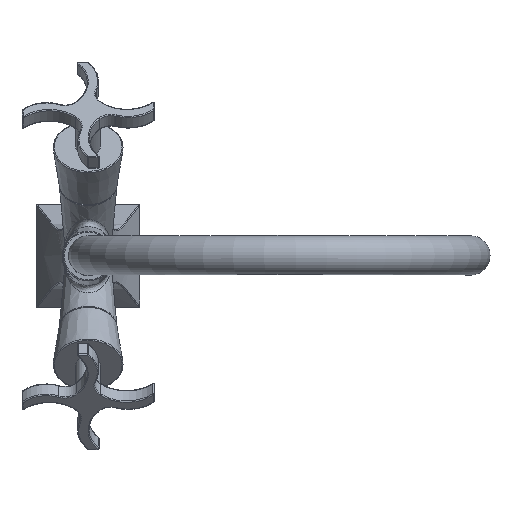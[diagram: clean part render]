
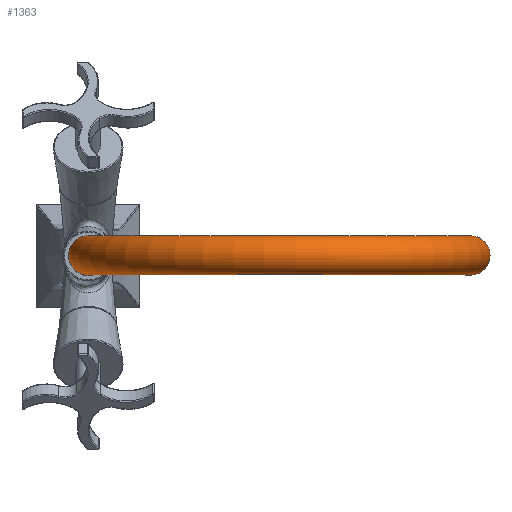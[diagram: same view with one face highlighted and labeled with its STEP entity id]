
A CAD part, top view. The second image highlights one B-rep face of the part: STEP entity #1363.
In plain terms, the highlighted toroidal (fillet/blend) face has major radius 92.5 mm and minor radius 9.5 mm.
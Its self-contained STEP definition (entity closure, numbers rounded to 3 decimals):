
#1363=ADVANCED_FACE('',(#8215,#8217),#8219,.T.);
#8215=FACE_OUTER_BOUND('',#8216,.T.);
#8216=EDGE_LOOP('',(#9338));
#8217=FACE_OUTER_BOUND('',#8218,.T.);
#8218=EDGE_LOOP('',(#9339));
#8219=TOROIDAL_SURFACE('',#8220,92.5,9.5);
#8220=AXIS2_PLACEMENT_3D('',#8221,#8222,#8223);
#8221=CARTESIAN_POINT('',(92.5,0.,245.5));
#8222=DIRECTION('',(0.,1.,0.));
#8223=DIRECTION('',(-1.,0.,0.));
#9338=ORIENTED_EDGE('',*,*,#9918,.F.);
#9339=ORIENTED_EDGE('',*,*,#9916,.T.);
#9916=EDGE_CURVE('',#10557,#10557,#10558,.T.);
#9918=EDGE_CURVE('',#10561,#10561,#10562,.T.);
#10557=VERTEX_POINT('',#14362);
#10558=CIRCLE('',#14363,9.5);
#10561=VERTEX_POINT('',#14372);
#10562=CIRCLE('',#14373,9.5);
#14362=CARTESIAN_POINT('',(9.5,0.,245.5));
#14363=AXIS2_PLACEMENT_3D('',#14364,#14365,#14366);
#14364=CARTESIAN_POINT('',(0.,0.,245.5));
#14365=DIRECTION('',(0.,0.,1.));
#14366=DIRECTION('',(1.,0.,0.));
#14372=CARTESIAN_POINT('',(175.5,0.,245.5));
#14373=AXIS2_PLACEMENT_3D('',#14374,#14375,#14376);
#14374=CARTESIAN_POINT('',(185.,0.,245.5));
#14375=DIRECTION('',(0.,0.,-1.));
#14376=DIRECTION('',(-1.,0.,0.));
